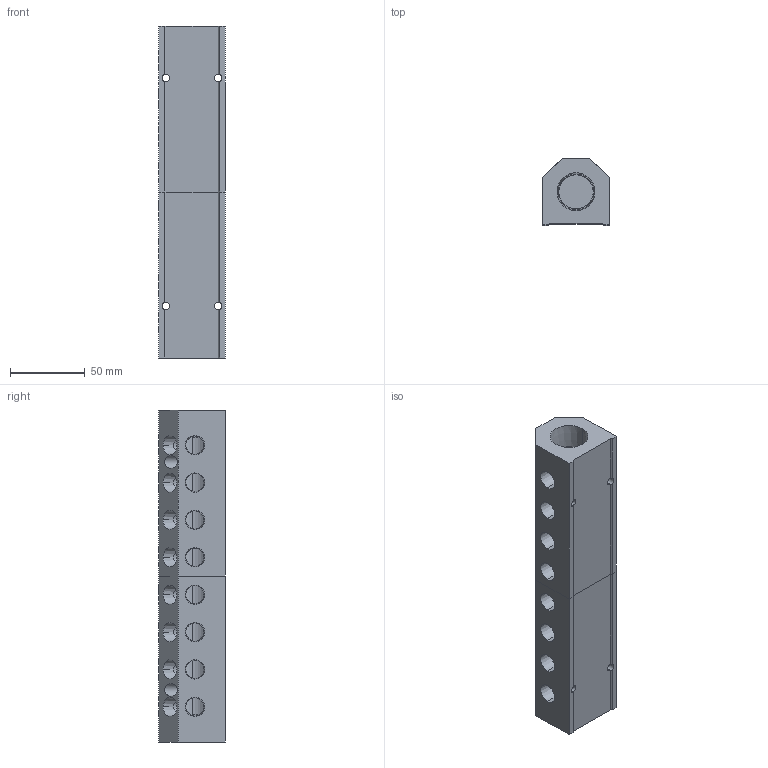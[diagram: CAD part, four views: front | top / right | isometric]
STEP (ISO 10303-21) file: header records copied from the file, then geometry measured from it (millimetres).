
FILE_DESCRIPTION (( 'STEP AP214' ), '1' );
FILE_NAME ('ALM8ABC-N4N12-222RB.step', '2022-02-06T14:18:51', ( '' ), ( '' ), 'SwSTEP 2.0', 'SolidWorks 2020', '' );
FILE_SCHEMA (( 'AUTOMOTIVE_DESIGN' ));
Length unit declared in the file: millimetre
Products named in the file (1): ALM8ABC-N4N12-222RB
Bounding box: 44.5 x 44.5 x 222 mm (x, y, z)
Volume: 263882.9 mm3; surface area: 66219.2 mm2
Topology: 2 solids, 2 shells, 409 faces, 1160 edges, 770 vertices
Faces by surface type: plane 245, bspline 77, cone 59, cylinder 28
Entity records: 23724 total; most frequent: CARTESIAN_POINT 9785, ORIENTED_EDGE 2320, DIRECTION 1624, EDGE_CURVE 1160, VERTEX_POINT 770, LINE 750, VECTOR 750, EDGE_LOOP 480
